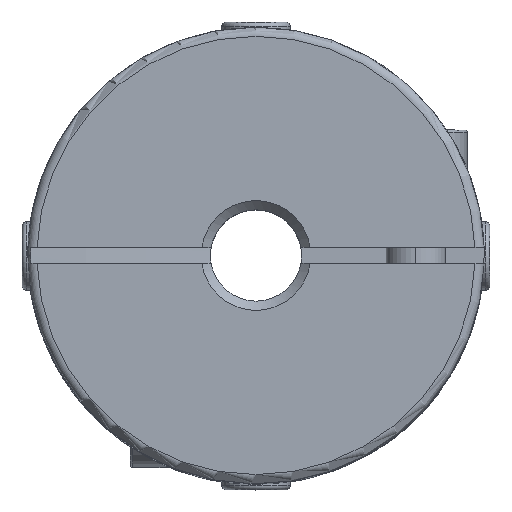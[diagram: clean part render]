
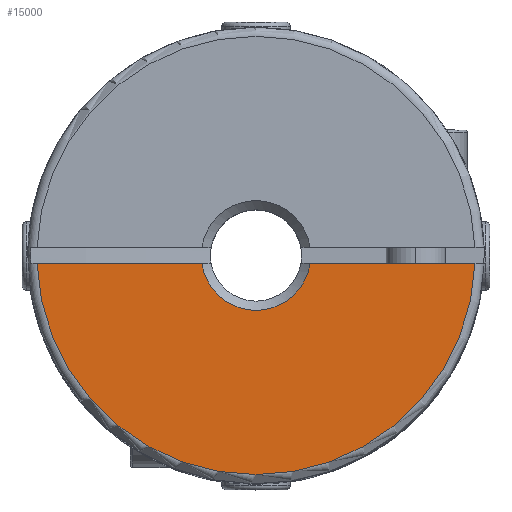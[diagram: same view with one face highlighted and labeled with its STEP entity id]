
A CAD part, top view. The second image highlights one B-rep face of the part: STEP entity #15000.
In plain terms, the highlighted planar face has unit normal (0, 0, 1).
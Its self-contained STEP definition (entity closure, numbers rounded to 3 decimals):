
#1417 = EDGE_LOOP ( 'NONE', ( #13330, #13326, #13328, #13332 ) ) ;
#1821 = VERTEX_POINT ( 'NONE', #5957 ) ;
#1822 = VERTEX_POINT ( 'NONE', #5958 ) ;
#1855 = VERTEX_POINT ( 'NONE', #5991 ) ;
#1856 = VERTEX_POINT ( 'NONE', #5992 ) ;
#4172 = CARTESIAN_POINT ( 'NONE',  ( 0., 0., 13.2 ) ) ;
#4173 = DIRECTION ( 'NONE',  ( 0., 0., 1. ) ) ;
#4174 = DIRECTION ( 'NONE',  ( -1., 0., 0. ) ) ;
#4424 = CARTESIAN_POINT ( 'NONE',  ( 0., 0., 13.2 ) ) ;
#4425 = LINE ( 'NONE', #4426, #15311 ) ;
#4426 = CARTESIAN_POINT ( 'NONE',  ( 0., -0.35, 13.2 ) ) ;
#4427 = DIRECTION ( 'NONE',  ( 1., 0., 0. ) ) ;
#4428 = LINE ( 'NONE', #4429, #15353 ) ;
#4429 = CARTESIAN_POINT ( 'NONE',  ( 0., -0.35, 13.2 ) ) ;
#4430 = DIRECTION ( 'NONE',  ( 1., 0., 0. ) ) ;
#4431 = DIRECTION ( 'NONE',  ( 0., 0., -1. ) ) ;
#4432 = DIRECTION ( 'NONE',  ( -1., 0., 0. ) ) ;
#4508 = PLANE ( 'NONE',  #8850 ) ;
#4509 = CARTESIAN_POINT ( 'NONE',  ( 0., 0., 13.2 ) ) ;
#4510 = DIRECTION ( 'NONE',  ( 0., 0., 1. ) ) ;
#4511 = DIRECTION ( 'NONE',  ( -1., 0., 0. ) ) ;
#5957 = CARTESIAN_POINT ( 'NONE',  ( 9.594, -0.35, 13.2 ) ) ;
#5958 = CARTESIAN_POINT ( 'NONE',  ( -9.594, -0.35, 13.2 ) ) ;
#5991 = CARTESIAN_POINT ( 'NONE',  ( -2.374, -0.35, 13.2 ) ) ;
#5992 = CARTESIAN_POINT ( 'NONE',  ( 2.374, -0.35, 13.2 ) ) ;
#8177 = CIRCLE ( 'NONE', #15319, 9.6 ) ;
#8191 = CIRCLE ( 'NONE', #15242, 2.4 ) ;
#8847 = FACE_OUTER_BOUND ( 'NONE', #1417, .T. ) ;
#8850 = AXIS2_PLACEMENT_3D ( 'NONE', #4509, #4510, #4511 ) ;
#13326 = ORIENTED_EDGE ( 'NONE', *, *, #14361, .T. ) ;
#13328 = ORIENTED_EDGE ( 'NONE', *, *, #14410, .F. ) ;
#13330 = ORIENTED_EDGE ( 'NONE', *, *, #14409, .F. ) ;
#13332 = ORIENTED_EDGE ( 'NONE', *, *, #14411, .T. ) ;
#14361 = EDGE_CURVE ( 'NONE', #1822, #1821, #8177, .T. ) ;
#14409 = EDGE_CURVE ( 'NONE', #1822, #1855, #4425, .T. ) ;
#14410 = EDGE_CURVE ( 'NONE', #1856, #1821, #4428, .T. ) ;
#14411 = EDGE_CURVE ( 'NONE', #1856, #1855, #8191, .T. ) ;
#15000 = ADVANCED_FACE ( 'NONE', ( #8847 ), #4508, .T. ) ;
#15242 = AXIS2_PLACEMENT_3D ( 'NONE', #4424, #4431, #4432 ) ;
#15311 = VECTOR ( 'NONE', #4427, 1000. ) ;
#15319 = AXIS2_PLACEMENT_3D ( 'NONE', #4172, #4173, #4174 ) ;
#15353 = VECTOR ( 'NONE', #4430, 1000. ) ;
